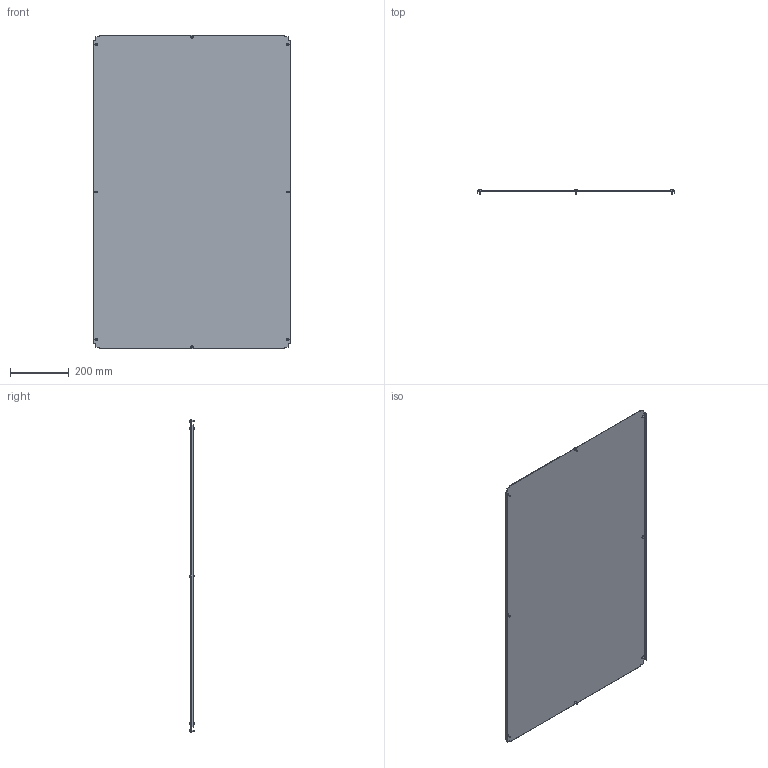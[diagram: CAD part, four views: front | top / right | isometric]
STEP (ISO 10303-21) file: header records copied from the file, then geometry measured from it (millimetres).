
FILE_DESCRIPTION (( 'STEP AP203' ), '1' );
FILE_NAME ('R5N1BP128.STEP', '2025-02-21T13:59:29', ( '' ), ( '' ), 'SwSTEP 2.0', 'SolidWorks 2022', '' );
FILE_SCHEMA (( 'CONFIG_CONTROL_DESIGN' ));
Length unit declared in the file: millimetre
Products named in the file (3): R5N1BP128; RB.1923.00.00.0_-15; M5x12 DIN 7500 C Torx Zinc_stright
Assembly tree (9 placements, depth 2):
  R5N1BP128
    RB.1923.00.00.0_-15
    M5x12 DIN 7500 C Torx Zinc_stright  x8
Bounding box: 668 x 15.56 x 1062 mm (x, y, z)
Volume: 1088963.3 mm3; surface area: 1456327 mm2
Topology: 9 solids, 9 shells, 206 faces, 468 edges, 288 vertices
Faces by surface type: plane 126, cylinder 32, torus 16, cone 16, sphere 8, bspline 8
Full cylindrical faces by diameter (mm): 5 x8, 9.5 x8
Entity records: 3641 total; most frequent: CARTESIAN_POINT 724, DIRECTION 496, ORIENTED_EDGE 496, EDGE_CURVE 248, LINE 196, VECTOR 196, VERTEX_POINT 166, AXIS2_PLACEMENT_3D 150
